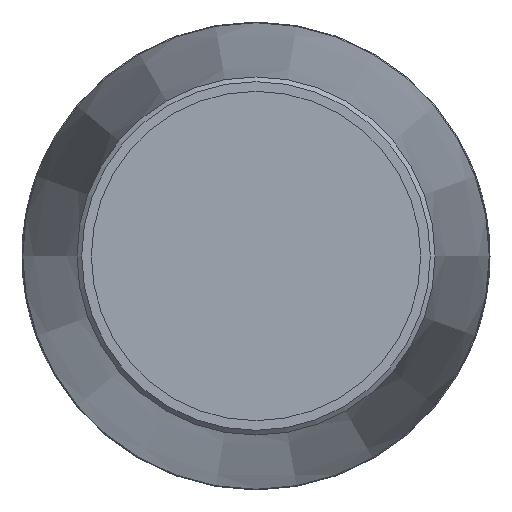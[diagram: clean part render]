
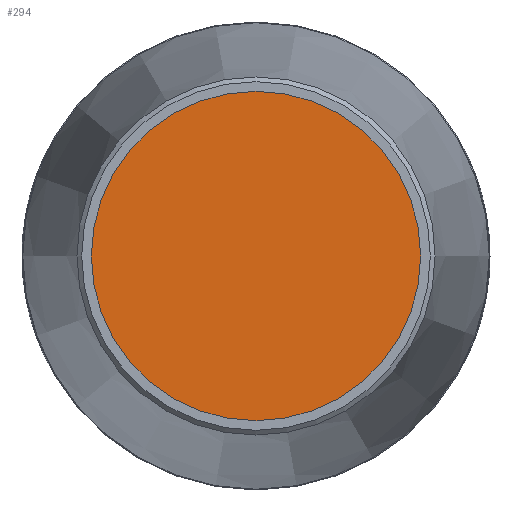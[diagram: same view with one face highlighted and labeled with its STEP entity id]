
A CAD part, left-side view. The second image highlights one B-rep face of the part: STEP entity #294.
In plain terms, the highlighted planar face has unit normal (-1, 0, 0).
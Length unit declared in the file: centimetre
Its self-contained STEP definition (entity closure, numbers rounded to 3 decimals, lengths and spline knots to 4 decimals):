
#48=PLANE('',#329);
#77=FACE_OUTER_BOUND('',#108,.T.);
#108=EDGE_LOOP('',(#214));
#134=CIRCLE('',#328,1.9);
#148=VERTEX_POINT('',#455);
#174=EDGE_CURVE('',#148,#148,#134,.T.);
#214=ORIENTED_EDGE('',*,*,#174,.T.);
#294=ADVANCED_FACE('',(#77),#48,.T.);
#328=AXIS2_PLACEMENT_3D('',#456,#387,#388);
#329=AXIS2_PLACEMENT_3D('',#457,#389,#390);
#387=DIRECTION('center_axis',(-1.,0.,0.));
#388=DIRECTION('ref_axis',(0.,0.,1.));
#389=DIRECTION('center_axis',(-1.,0.,0.));
#390=DIRECTION('ref_axis',(0.,0.,1.));
#455=CARTESIAN_POINT('',(-13.4,-1.9,0.));
#456=CARTESIAN_POINT('Origin',(-13.4,0.,0.));
#457=CARTESIAN_POINT('Origin',(-13.4,0.,0.));
